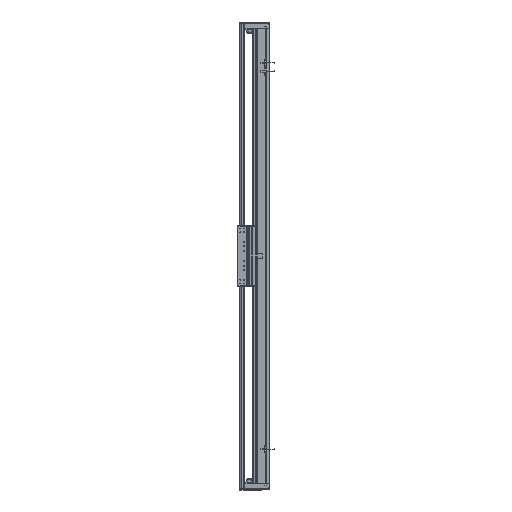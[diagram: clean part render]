
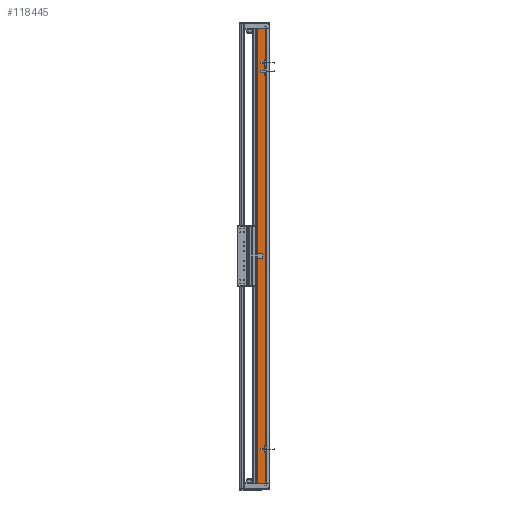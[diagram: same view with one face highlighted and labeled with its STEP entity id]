
A CAD part, left-side view. The second image highlights one B-rep face of the part: STEP entity #118445.
In plain terms, the highlighted planar face has unit normal (-1, 0, 0).
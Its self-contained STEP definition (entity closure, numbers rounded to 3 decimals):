
#4135 = CARTESIAN_POINT ( 'NONE',  ( -97.5, 14.45, 720. ) ) ;
#11222 = DIRECTION ( 'NONE',  ( 0., 1., 0. ) ) ;
#13287 = LINE ( 'NONE', #142017, #144036 ) ;
#25523 = DIRECTION ( 'NONE',  ( 0., -1., 0. ) ) ;
#28164 = EDGE_CURVE ( 'NONE', #123027, #45917, #62961, .T. ) ;
#36486 = CARTESIAN_POINT ( 'NONE',  ( -97.5, 36.95, 720. ) ) ;
#37665 = CARTESIAN_POINT ( 'NONE',  ( -97.5, 36.95, 720. ) ) ;
#43891 = VERTEX_POINT ( 'NONE', #132147 ) ;
#45917 = VERTEX_POINT ( 'NONE', #150806 ) ;
#48521 = VECTOR ( 'NONE', #133641, 1000. ) ;
#50750 = ORIENTED_EDGE ( 'NONE', *, *, #140904, .F. ) ;
#55933 = CARTESIAN_POINT ( 'NONE',  ( -97.5, 36.95, 720. ) ) ;
#57564 = VERTEX_POINT ( 'NONE', #63083 ) ;
#59610 = EDGE_LOOP ( 'NONE', ( #133915, #135281, #50750, #84222 ) ) ;
#62961 = LINE ( 'NONE', #37665, #75676 ) ;
#63083 = CARTESIAN_POINT ( 'NONE',  ( -97.5, 14.45, -720. ) ) ;
#74931 = EDGE_CURVE ( 'NONE', #45917, #57564, #13287, .T. ) ;
#75676 = VECTOR ( 'NONE', #108934, 1000. ) ;
#83277 = DIRECTION ( 'NONE',  ( 1., 0., 0. ) ) ;
#84222 = ORIENTED_EDGE ( 'NONE', *, *, #28164, .T. ) ;
#86936 = LINE ( 'NONE', #4135, #48521 ) ;
#89229 = VECTOR ( 'NONE', #92951, 1000. ) ;
#92951 = DIRECTION ( 'NONE',  ( 0., -1., 0. ) ) ;
#93693 = LINE ( 'NONE', #138885, #89229 ) ;
#94279 = AXIS2_PLACEMENT_3D ( 'NONE', #36486, #83277, #11222 ) ;
#94743 = FACE_OUTER_BOUND ( 'NONE', #59610, .T. ) ;
#106993 = PLANE ( 'NONE',  #94279 ) ;
#108934 = DIRECTION ( 'NONE',  ( 0., 0., -1. ) ) ;
#118445 = ADVANCED_FACE ( 'NONE', ( #94743 ), #106993, .F. ) ;
#123027 = VERTEX_POINT ( 'NONE', #55933 ) ;
#132147 = CARTESIAN_POINT ( 'NONE',  ( -97.5, 14.45, 720. ) ) ;
#133641 = DIRECTION ( 'NONE',  ( 0., 0., -1. ) ) ;
#133915 = ORIENTED_EDGE ( 'NONE', *, *, #74931, .T. ) ;
#134782 = EDGE_CURVE ( 'NONE', #43891, #57564, #86936, .T. ) ;
#135281 = ORIENTED_EDGE ( 'NONE', *, *, #134782, .F. ) ;
#138885 = CARTESIAN_POINT ( 'NONE',  ( -97.5, 36.95, 720. ) ) ;
#140904 = EDGE_CURVE ( 'NONE', #123027, #43891, #93693, .T. ) ;
#142017 = CARTESIAN_POINT ( 'NONE',  ( -97.5, 36.95, -720. ) ) ;
#144036 = VECTOR ( 'NONE', #25523, 1000. ) ;
#150806 = CARTESIAN_POINT ( 'NONE',  ( -97.5, 36.95, -720. ) ) ;
